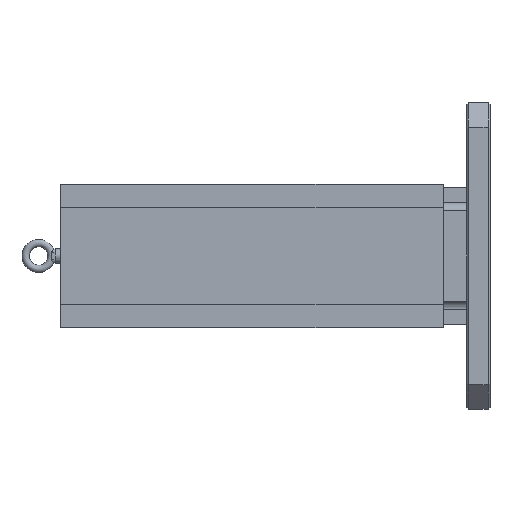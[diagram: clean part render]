
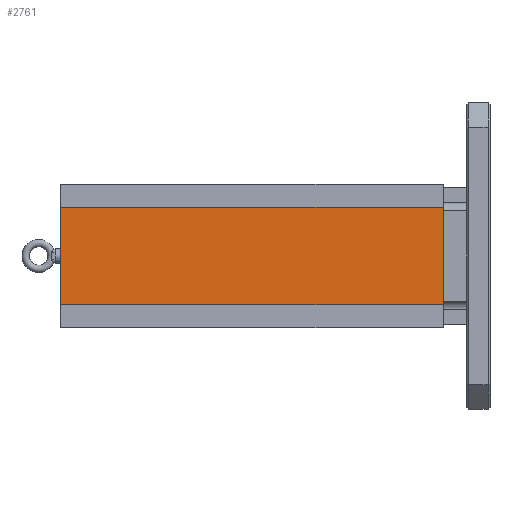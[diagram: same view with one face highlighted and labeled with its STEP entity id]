
A CAD part, left-side view. The second image highlights one B-rep face of the part: STEP entity #2761.
In plain terms, the highlighted planar face has unit normal (-1, 0, 0).
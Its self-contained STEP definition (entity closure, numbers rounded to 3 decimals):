
#210 = CARTESIAN_POINT ( 'NONE',  ( -116.992, 662., -79.273 ) ) ;
#574 = DIRECTION ( 'NONE',  ( 0., -1., 0. ) ) ;
#1372 = CARTESIAN_POINT ( 'NONE',  ( -116.992, 662., 79.273 ) ) ;
#1499 = VERTEX_POINT ( 'NONE', #9471 ) ;
#1618 = EDGE_CURVE ( 'NONE', #1736, #11937, #3764, .T. ) ;
#1673 = EDGE_CURVE ( 'NONE', #1736, #8704, #2336, .T. ) ;
#1736 = VERTEX_POINT ( 'NONE', #8841 ) ;
#1873 = DIRECTION ( 'NONE',  ( 0., 0., 1. ) ) ;
#1990 = VECTOR ( 'NONE', #11139, 1000. ) ;
#2031 = ORIENTED_EDGE ( 'NONE', *, *, #2978, .F. ) ;
#2336 = LINE ( 'NONE', #8670, #10663 ) ;
#2761 = ADVANCED_FACE ( 'NONE', ( #4998 ), #9429, .F. ) ;
#2854 = CARTESIAN_POINT ( 'NONE',  ( -116.992, 38.1, -79.273 ) ) ;
#2978 = EDGE_CURVE ( 'NONE', #1499, #8704, #5538, .T. ) ;
#3104 = CARTESIAN_POINT ( 'NONE',  ( -116.992, 662., -79.273 ) ) ;
#3191 = EDGE_CURVE ( 'NONE', #11937, #1499, #11552, .T. ) ;
#3207 = DIRECTION ( 'NONE',  ( 0., -1., 0. ) ) ;
#3764 = LINE ( 'NONE', #210, #9881 ) ;
#3805 = ORIENTED_EDGE ( 'NONE', *, *, #1673, .T. ) ;
#4998 = FACE_OUTER_BOUND ( 'NONE', #6896, .T. ) ;
#5538 = LINE ( 'NONE', #2854, #1990 ) ;
#6468 = VECTOR ( 'NONE', #574, 1000. ) ;
#6896 = EDGE_LOOP ( 'NONE', ( #2031, #9977, #11262, #3805 ) ) ;
#7880 = AXIS2_PLACEMENT_3D ( 'NONE', #3104, #8692, #8510 ) ;
#8510 = DIRECTION ( 'NONE',  ( 0., 0., -1. ) ) ;
#8670 = CARTESIAN_POINT ( 'NONE',  ( -116.992, 662., -79.273 ) ) ;
#8692 = DIRECTION ( 'NONE',  ( 1., 0., 0. ) ) ;
#8704 = VERTEX_POINT ( 'NONE', #10028 ) ;
#8841 = CARTESIAN_POINT ( 'NONE',  ( -116.992, 662., -79.273 ) ) ;
#9429 = PLANE ( 'NONE',  #7880 ) ;
#9471 = CARTESIAN_POINT ( 'NONE',  ( -116.992, 38.1, 79.273 ) ) ;
#9881 = VECTOR ( 'NONE', #1873, 1000. ) ;
#9977 = ORIENTED_EDGE ( 'NONE', *, *, #3191, .F. ) ;
#10028 = CARTESIAN_POINT ( 'NONE',  ( -116.992, 38.1, -79.273 ) ) ;
#10363 = CARTESIAN_POINT ( 'NONE',  ( -116.992, 662., 79.273 ) ) ;
#10663 = VECTOR ( 'NONE', #3207, 1000. ) ;
#11139 = DIRECTION ( 'NONE',  ( 0., 0., -1. ) ) ;
#11262 = ORIENTED_EDGE ( 'NONE', *, *, #1618, .F. ) ;
#11552 = LINE ( 'NONE', #1372, #6468 ) ;
#11937 = VERTEX_POINT ( 'NONE', #10363 ) ;
